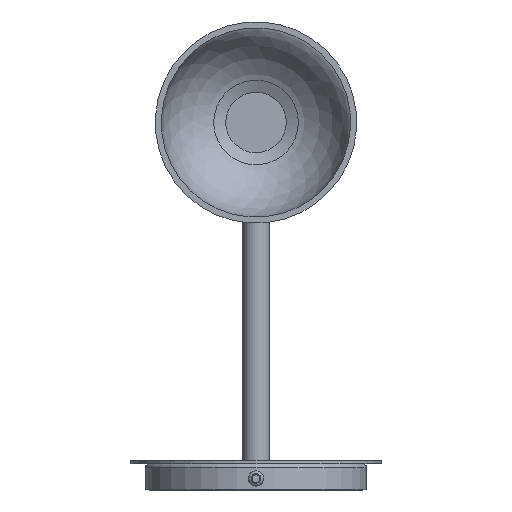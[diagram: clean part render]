
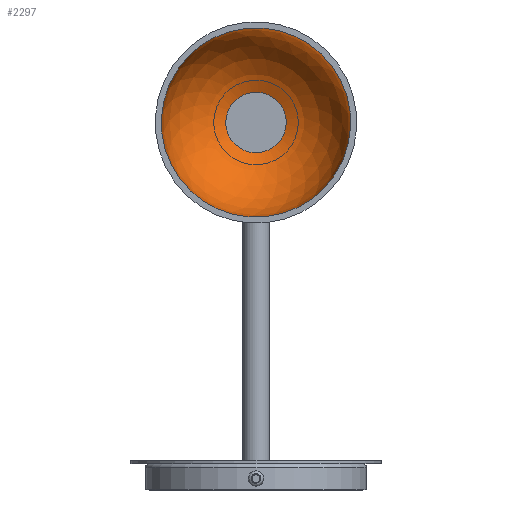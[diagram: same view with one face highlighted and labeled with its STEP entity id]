
A CAD part, front view. The second image highlights one B-rep face of the part: STEP entity #2297.
In plain terms, the highlighted spherical face has radius 47 mm.
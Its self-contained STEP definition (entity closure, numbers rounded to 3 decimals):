
#13=SPHERICAL_SURFACE('',#2615,47.);
#306=FACE_OUTER_BOUND('',#458,.T.);
#458=EDGE_LOOP('',(#1958,#1959,#1960,#1961,#1962,#1963));
#900=CIRCLE('',#2613,47.);
#901=CIRCLE('',#2614,47.);
#902=CIRCLE('',#2616,15.);
#903=CIRCLE('',#2617,15.);
#904=CIRCLE('',#2618,47.);
#1085=VERTEX_POINT('',#4010);
#1086=VERTEX_POINT('',#4012);
#1087=VERTEX_POINT('',#4016);
#1088=VERTEX_POINT('',#4017);
#1377=EDGE_CURVE('',#1086,#1085,#900,.T.);
#1378=EDGE_CURVE('',#1085,#1086,#901,.T.);
#1379=EDGE_CURVE('',#1087,#1088,#902,.T.);
#1380=EDGE_CURVE('',#1088,#1087,#903,.T.);
#1381=EDGE_CURVE('',#1088,#1086,#904,.T.);
#1958=ORIENTED_EDGE('',*,*,#1379,.F.);
#1959=ORIENTED_EDGE('',*,*,#1380,.F.);
#1960=ORIENTED_EDGE('',*,*,#1381,.T.);
#1961=ORIENTED_EDGE('',*,*,#1377,.T.);
#1962=ORIENTED_EDGE('',*,*,#1378,.T.);
#1963=ORIENTED_EDGE('',*,*,#1381,.F.);
#2297=ADVANCED_FACE('',(#306),#13,.F.);
#2613=AXIS2_PLACEMENT_3D('',#4013,#3329,#3330);
#2614=AXIS2_PLACEMENT_3D('',#4014,#3331,#3332);
#2615=AXIS2_PLACEMENT_3D('',#4015,#3333,#3334);
#2616=AXIS2_PLACEMENT_3D('',#4018,#3335,#3336);
#2617=AXIS2_PLACEMENT_3D('',#4019,#3337,#3338);
#2618=AXIS2_PLACEMENT_3D('',#4020,#3339,#3340);
#3329=DIRECTION('center_axis',(0.,-1.,0.));
#3330=DIRECTION('ref_axis',(-0.444,0.,0.896));
#3331=DIRECTION('center_axis',(0.,-1.,0.));
#3332=DIRECTION('ref_axis',(-0.444,0.,0.896));
#3333=DIRECTION('center_axis',(0.,1.,0.));
#3334=DIRECTION('ref_axis',(0.896,0.,0.444));
#3335=DIRECTION('center_axis',(0.,-1.,0.));
#3336=DIRECTION('ref_axis',(-0.444,0.,0.896));
#3337=DIRECTION('center_axis',(0.,-1.,0.));
#3338=DIRECTION('ref_axis',(-0.444,0.,0.896));
#3339=DIRECTION('center_axis',(-0.444,0.,0.896));
#3340=DIRECTION('ref_axis',(-0.896,0.,-0.444));
#4010=CARTESIAN_POINT('',(20.883,-1054.247,140.394));
#4012=CARTESIAN_POINT('',(-42.106,-1054.247,161.617));
#4013=CARTESIAN_POINT('Origin',(0.,-1054.247,182.5));
#4014=CARTESIAN_POINT('Origin',(0.,-1054.247,182.5));
#4015=CARTESIAN_POINT('Origin',(0.,-1054.247,182.5));
#4016=CARTESIAN_POINT('',(6.665,-1009.705,169.062));
#4017=CARTESIAN_POINT('',(-13.438,-1009.705,175.835));
#4018=CARTESIAN_POINT('Origin',(0.,-1009.705,
182.5));
#4019=CARTESIAN_POINT('Origin',(0.,-1009.705,
182.5));
#4020=CARTESIAN_POINT('Origin',(0.,-1054.247,182.5));
